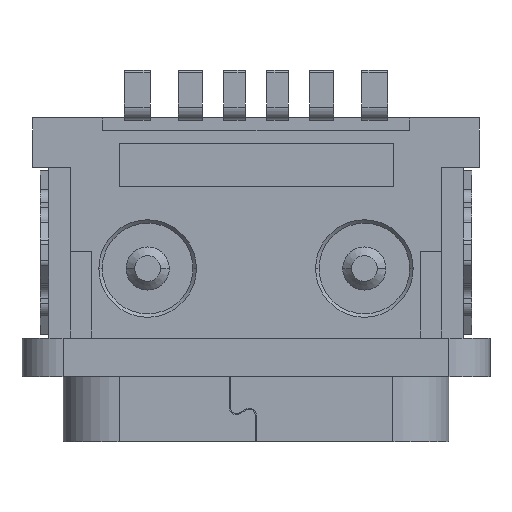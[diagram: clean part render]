
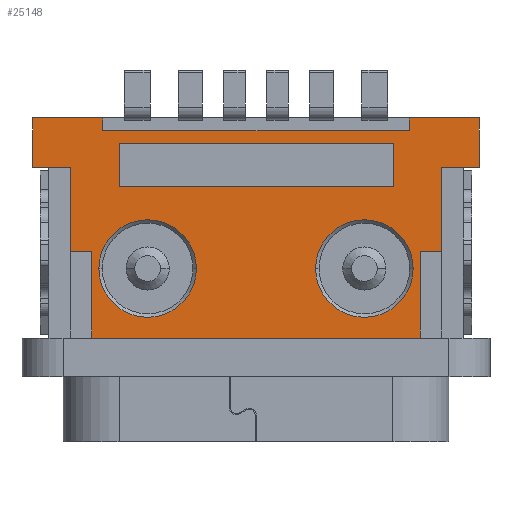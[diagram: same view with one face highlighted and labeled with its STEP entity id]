
A CAD part, front view. The second image highlights one B-rep face of the part: STEP entity #25148.
In plain terms, the highlighted planar face has unit normal (0, -1, 0).
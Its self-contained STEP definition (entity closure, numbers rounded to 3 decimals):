
#23632=DIRECTION('',(1.,0.,0.));
#23633=VECTOR('',#23632,7.6);
#23634=CARTESIAN_POINT('',(26.2,-2.16,2.4));
#23635=LINE('',#23634,#23633);
#23694=DIRECTION('',(0.,0.,-1.));
#23695=VECTOR('',#23694,1.95);
#23696=CARTESIAN_POINT('',(25.7,-2.16,6.35));
#23697=LINE('',#23696,#23695);
#23702=CARTESIAN_POINT('',(32.51,-2.16,4.01));
#23703=DIRECTION('',(0.,-1.,0.));
#23704=DIRECTION('',(1.,0.,0.));
#23705=AXIS2_PLACEMENT_3D('',#23702,#23703,#23704);
#23707=CARTESIAN_POINT('',(32.51,-2.16,4.01));
#23708=DIRECTION('',(0.,-1.,0.));
#23709=DIRECTION('',(-1.,0.,0.));
#23710=AXIS2_PLACEMENT_3D('',#23707,#23708,#23709);
#23712=CARTESIAN_POINT('',(27.49,-2.16,4.01));
#23713=DIRECTION('',(0.,-1.,0.));
#23714=DIRECTION('',(1.,0.,0.));
#23715=AXIS2_PLACEMENT_3D('',#23712,#23713,#23714);
#23717=CARTESIAN_POINT('',(27.49,-2.16,4.01));
#23718=DIRECTION('',(0.,-1.,0.));
#23719=DIRECTION('',(-1.,0.,0.));
#23720=AXIS2_PLACEMENT_3D('',#23717,#23718,#23719);
#23722=DIRECTION('',(0.,0.,1.));
#23723=VECTOR('',#23722,1.95);
#23724=CARTESIAN_POINT('',(34.3,-2.16,4.4));
#23725=LINE('',#23724,#23723);
#23762=DIRECTION('',(1.,0.,0.));
#23763=VECTOR('',#23762,0.87);
#23764=CARTESIAN_POINT('',(34.3,-2.16,6.35));
#23765=LINE('',#23764,#23763);
#23776=DIRECTION('',(1.,0.,0.));
#23777=VECTOR('',#23776,0.87);
#23778=CARTESIAN_POINT('',(24.83,-2.16,6.35));
#23779=LINE('',#23778,#23777);
#23810=DIRECTION('',(0.,0.,1.));
#23811=VECTOR('',#23810,1.15);
#23812=CARTESIAN_POINT('',(35.17,-2.16,6.35));
#23813=LINE('',#23812,#23811);
#23826=DIRECTION('',(-1.,0.,0.));
#23827=VECTOR('',#23826,1.62);
#23828=CARTESIAN_POINT('',(26.45,-2.16,7.5));
#23829=LINE('',#23828,#23827);
#23840=DIRECTION('',(-1.,0.,0.));
#23841=VECTOR('',#23840,1.62);
#23842=CARTESIAN_POINT('',(35.17,-2.16,7.5));
#23843=LINE('',#23842,#23841);
#23860=DIRECTION('',(0.,0.,-1.));
#23861=VECTOR('',#23860,0.3);
#23862=CARTESIAN_POINT('',(33.55,-2.16,7.5));
#23863=LINE('',#23862,#23861);
#23884=DIRECTION('',(-1.,0.,0.));
#23885=VECTOR('',#23884,7.1);
#23886=CARTESIAN_POINT('',(33.55,-2.16,7.2));
#23887=LINE('',#23886,#23885);
#23908=DIRECTION('',(0.,0.,1.));
#23909=VECTOR('',#23908,0.3);
#23910=CARTESIAN_POINT('',(26.45,-2.16,7.2));
#23911=LINE('',#23910,#23909);
#23952=DIRECTION('',(0.,0.,-1.));
#23953=VECTOR('',#23952,1.15);
#23954=CARTESIAN_POINT('',(24.83,-2.16,7.5));
#23955=LINE('',#23954,#23953);
#24048=DIRECTION('',(0.,0.,1.));
#24049=VECTOR('',#24048,2.);
#24050=CARTESIAN_POINT('',(33.8,-2.16,2.4));
#24051=LINE('',#24050,#24049);
#24056=DIRECTION('',(1.,0.,0.));
#24057=VECTOR('',#24056,0.5);
#24058=CARTESIAN_POINT('',(33.8,-2.16,4.4));
#24059=LINE('',#24058,#24057);
#24068=DIRECTION('',(0.,0.,-1.));
#24069=VECTOR('',#24068,2.);
#24070=CARTESIAN_POINT('',(26.2,-2.16,4.4));
#24071=LINE('',#24070,#24069);
#24092=DIRECTION('',(1.,0.,0.));
#24093=VECTOR('',#24092,0.5);
#24094=CARTESIAN_POINT('',(25.7,-2.16,4.4));
#24095=LINE('',#24094,#24093);
#24477=CARTESIAN_POINT('',(26.2,-2.16,2.4));
#24478=VERTEX_POINT('',#24477);
#24479=CARTESIAN_POINT('',(33.8,-2.16,2.4));
#24480=VERTEX_POINT('',#24479);
#24509=CARTESIAN_POINT('',(25.7,-2.16,6.35));
#24510=CARTESIAN_POINT('',(25.7,-2.16,4.4));
#24511=VERTEX_POINT('',#24509);
#24512=VERTEX_POINT('',#24510);
#24515=CARTESIAN_POINT('',(34.3,-2.16,4.4));
#24516=CARTESIAN_POINT('',(34.3,-2.16,6.35));
#24517=VERTEX_POINT('',#24515);
#24518=VERTEX_POINT('',#24516);
#24519=CARTESIAN_POINT('',(33.8,-2.16,4.4));
#24520=VERTEX_POINT('',#24519);
#24521=CARTESIAN_POINT('',(26.2,-2.16,4.4));
#24522=VERTEX_POINT('',#24521);
#24523=CARTESIAN_POINT('',(24.83,-2.16,6.35));
#24524=VERTEX_POINT('',#24523);
#24525=CARTESIAN_POINT('',(24.83,-2.16,7.5));
#24526=VERTEX_POINT('',#24525);
#24527=CARTESIAN_POINT('',(26.45,-2.16,7.5));
#24528=VERTEX_POINT('',#24527);
#24529=CARTESIAN_POINT('',(26.45,-2.16,7.2));
#24530=VERTEX_POINT('',#24529);
#24531=CARTESIAN_POINT('',(33.55,-2.16,7.2));
#24532=VERTEX_POINT('',#24531);
#24533=CARTESIAN_POINT('',(33.55,-2.16,7.5));
#24534=VERTEX_POINT('',#24533);
#24535=CARTESIAN_POINT('',(35.17,-2.16,7.5));
#24536=VERTEX_POINT('',#24535);
#24537=CARTESIAN_POINT('',(35.17,-2.16,6.35));
#24538=VERTEX_POINT('',#24537);
#24539=CARTESIAN_POINT('',(33.64,-2.16,4.01));
#24540=CARTESIAN_POINT('',(31.38,-2.16,4.01));
#24541=VERTEX_POINT('',#24539);
#24542=VERTEX_POINT('',#24540);
#24543=CARTESIAN_POINT('',(28.62,-2.16,4.01));
#24544=CARTESIAN_POINT('',(26.36,-2.16,4.01));
#24545=VERTEX_POINT('',#24543);
#24546=VERTEX_POINT('',#24544);
#25099=CARTESIAN_POINT('',(30.,-2.16,4.95));
#25100=DIRECTION('',(0.,1.,0.));
#25101=DIRECTION('',(1.,0.,0.));
#25102=AXIS2_PLACEMENT_3D('',#25099,#25100,#25101);
#25103=PLANE('',#25102);
#25105=ORIENTED_EDGE('',*,*,#25104,.F.);
#25107=ORIENTED_EDGE('',*,*,#25106,.F.);
#25109=ORIENTED_EDGE('',*,*,#25108,.F.);
#25110=ORIENTED_EDGE('',*,*,#24944,.F.);
#25112=ORIENTED_EDGE('',*,*,#25111,.F.);
#25114=ORIENTED_EDGE('',*,*,#25113,.F.);
#25115=ORIENTED_EDGE('',*,*,#25086,.F.);
#25117=ORIENTED_EDGE('',*,*,#25116,.F.);
#25119=ORIENTED_EDGE('',*,*,#25118,.F.);
#25121=ORIENTED_EDGE('',*,*,#25120,.F.);
#25123=ORIENTED_EDGE('',*,*,#25122,.F.);
#25125=ORIENTED_EDGE('',*,*,#25124,.F.);
#25127=ORIENTED_EDGE('',*,*,#25126,.F.);
#25129=ORIENTED_EDGE('',*,*,#25128,.F.);
#25131=ORIENTED_EDGE('',*,*,#25130,.F.);
#25133=ORIENTED_EDGE('',*,*,#25132,.F.);
#25134=EDGE_LOOP('',(#25105,#25107,#25109,#25110,#25112,#25114,#25115,#25117,
#25119,#25121,#25123,#25125,#25127,#25129,#25131,#25133));
#25135=FACE_OUTER_BOUND('',#25134,.F.);
#25137=ORIENTED_EDGE('',*,*,#25136,.T.);
#25139=ORIENTED_EDGE('',*,*,#25138,.T.);
#25140=EDGE_LOOP('',(#25137,#25139));
#25141=FACE_BOUND('',#25140,.F.);
#25143=ORIENTED_EDGE('',*,*,#25142,.T.);
#25145=ORIENTED_EDGE('',*,*,#25144,.T.);
#25146=EDGE_LOOP('',(#25143,#25145));
#25147=FACE_BOUND('',#25146,.F.);
#25148=ADVANCED_FACE('',(#25135,#25141,#25147),#25103,.F.);
#23706=CIRCLE('',#23705,1.13);
#23711=CIRCLE('',#23710,1.13);
#23716=CIRCLE('',#23715,1.13);
#23721=CIRCLE('',#23720,1.13);
#24944=EDGE_CURVE('',#24478,#24480,#23635,.T.);
#25086=EDGE_CURVE('',#24511,#24512,#23697,.T.);
#25104=EDGE_CURVE('',#24517,#24518,#23725,.T.);
#25106=EDGE_CURVE('',#24520,#24517,#24059,.T.);
#25108=EDGE_CURVE('',#24480,#24520,#24051,.T.);
#25111=EDGE_CURVE('',#24522,#24478,#24071,.T.);
#25113=EDGE_CURVE('',#24512,#24522,#24095,.T.);
#25116=EDGE_CURVE('',#24524,#24511,#23779,.T.);
#25118=EDGE_CURVE('',#24526,#24524,#23955,.T.);
#25120=EDGE_CURVE('',#24528,#24526,#23829,.T.);
#25122=EDGE_CURVE('',#24530,#24528,#23911,.T.);
#25124=EDGE_CURVE('',#24532,#24530,#23887,.T.);
#25126=EDGE_CURVE('',#24534,#24532,#23863,.T.);
#25128=EDGE_CURVE('',#24536,#24534,#23843,.T.);
#25130=EDGE_CURVE('',#24538,#24536,#23813,.T.);
#25132=EDGE_CURVE('',#24518,#24538,#23765,.T.);
#25136=EDGE_CURVE('',#24541,#24542,#23706,.T.);
#25138=EDGE_CURVE('',#24542,#24541,#23711,.T.);
#25142=EDGE_CURVE('',#24545,#24546,#23716,.T.);
#25144=EDGE_CURVE('',#24546,#24545,#23721,.T.);
